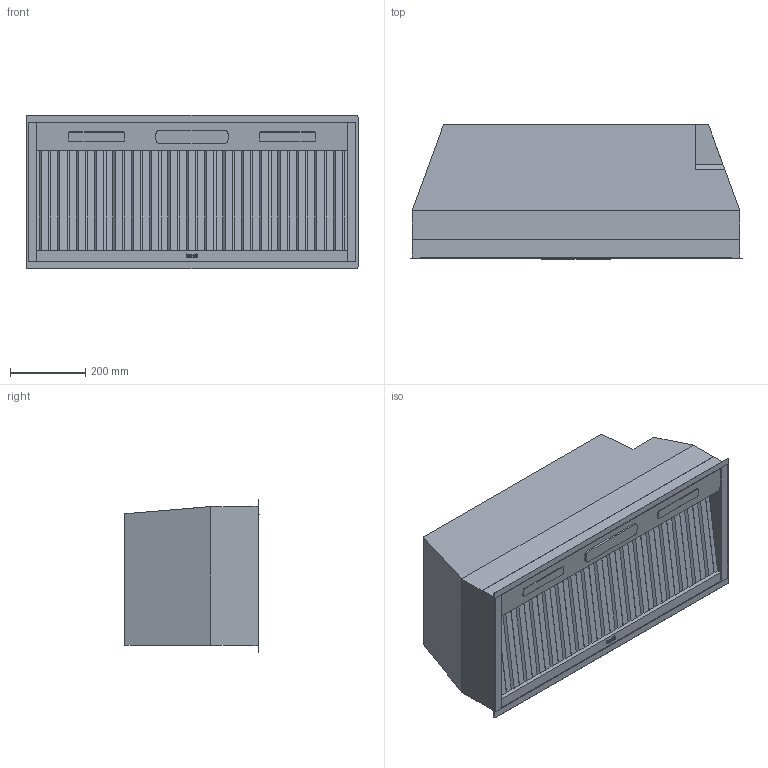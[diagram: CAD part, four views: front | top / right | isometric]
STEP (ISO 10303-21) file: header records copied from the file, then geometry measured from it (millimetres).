
FILE_DESCRIPTION((''),'2;1');
FILE_NAME('HBN223612SS_WEB_CAD_MODEL','2025-04-29T08:34:13',('BoutinM'),(''),'CREO PARAMETRIC BY PTC INC, 2023424','CREO PARAMETRIC BY PTC INC, 2023424','');
FILE_SCHEMA(('CONFIG_CONTROL_DESIGN','SHAPE_APPEARANCE_LAYERS_GROUPS'));
Length unit declared in the file: inch
Products named in the file (1): HBN223612SS_WEB_CAD_MODEL
Bounding box: 884.61 x 357.27 x 408.05 mm (x, y, z)
Volume: 97371539.8 mm3; surface area: 1658089.8 mm2
Topology: 1 solids, 1 shells, 234 faces, 602 edges, 378 vertices
Faces by surface type: plane 205, cylinder 29
Entity records: 9616 total; most frequent: CARTESIAN_POINT 1214, ORIENTED_EDGE 1204, DIRECTION 1128, PRESENTATION_STYLE_ASSIGNMENT 648, STYLED_ITEM 603, CURVE_STYLE 602, EDGE_CURVE 602, VECTOR 544
